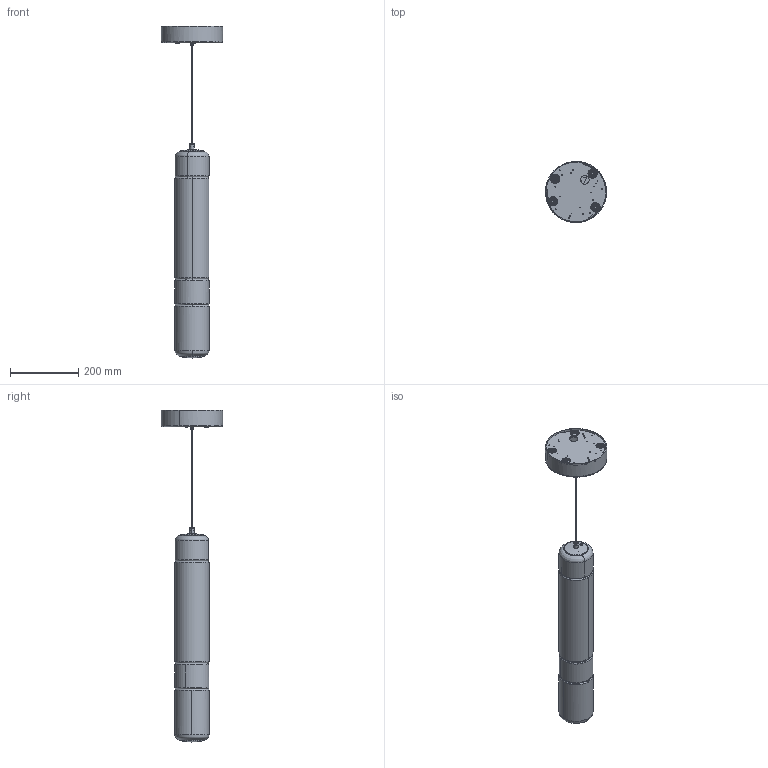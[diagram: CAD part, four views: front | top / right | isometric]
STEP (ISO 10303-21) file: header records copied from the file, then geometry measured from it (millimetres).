
FILE_DESCRIPTION(/* description */ (''),/* implementation_level */ '2;1');
FILE_NAME(/* name */ '00343MP2LD00ULPB - STACKING S 60 V GLASS USA',/* time_stamp */ '2023-09-27T17:24:38+02:00',/* author */ (''),/* organization */ (''),/* preprocessor_version */ 'ST-DEVELOPER v16.5',/* originating_system */ 'Rhino 7.27',/* authorisation */ '');
FILE_SCHEMA (('CONFIG_CONTROL_DESIGN'));
Length unit declared in the file: millimetre
Products named in the file (1): Document
Bounding box: 179.59 x 179.43 x 975.06 mm (x, y, z)
Volume: 1109085.9 mm3; surface area: 955927.5 mm2
Topology: 21 solids, 55 shells, 798 faces, 2071 edges, 1403 vertices
Faces by surface type: cylinder 297, plane 293, bspline 208
Entity records: 28584 total; most frequent: CARTESIAN_POINT 15404, ORIENTED_EDGE 3930, EDGE_CURVE 2061, VERTEX_POINT 1403, EDGE_LOOP 998, B_SPLINE_CURVE_WITH_KNOTS 854, ADVANCED_FACE 798, FACE_OUTER_BOUND 798
